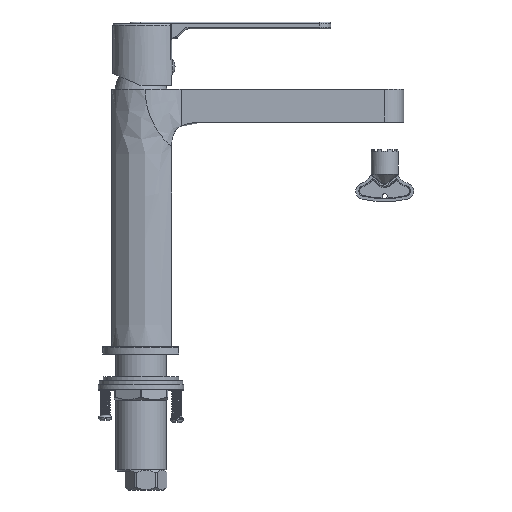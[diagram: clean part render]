
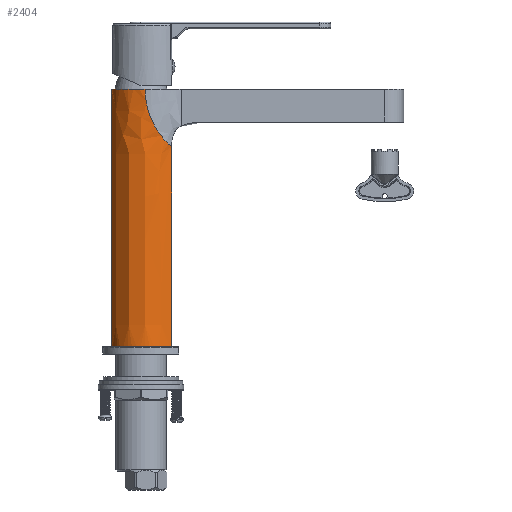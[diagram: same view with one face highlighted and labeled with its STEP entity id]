
A CAD part, front view. The second image highlights one B-rep face of the part: STEP entity #2404.
In plain terms, the highlighted face is a extrusion surface.
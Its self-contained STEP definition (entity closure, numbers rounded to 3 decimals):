
#13=CARTESIAN_POINT('',(-20.07,0.,-0.1));
#15=CARTESIAN_POINT('',(-20.07,0.,-0.1));
#16=CARTESIAN_POINT('',(-20.07,-1.516,
-0.1));
#17=CARTESIAN_POINT('',(-19.689,-4.547,
-0.1));
#18=CARTESIAN_POINT('',(-17.713,-9.24,
-0.1));
#19=CARTESIAN_POINT('',(-14.322,-13.37,
-0.1));
#20=CARTESIAN_POINT('',(-9.857,-16.469,
-0.1));
#21=CARTESIAN_POINT('',(-4.837,-18.257,
-0.1));
#22=CARTESIAN_POINT('',(0.002,-18.772,
-0.1));
#23=CARTESIAN_POINT('',(4.842,-18.257,-0.1));
#24=CARTESIAN_POINT('',(9.862,-16.469,-0.1));
#25=CARTESIAN_POINT('',(13.521,-13.929,-0.1));
#26=CARTESIAN_POINT('',(15.311,-12.057,-0.1));
#27=CARTESIAN_POINT('',(15.83,-11.44,-0.1));
#99=DIRECTION('',(0.,0.,1.));
#100=VECTOR('',#99,154.036);
#101=CARTESIAN_POINT('',(-20.07,0.,-0.1));
#102=LINE('',#101,#100);
#103=DIRECTION('',(0.,0.,-1.));
#104=VECTOR('',#103,119.609);
#105=CARTESIAN_POINT('',(15.83,-11.44,119.509));
#106=LINE('',#105,#104);
#121=CARTESIAN_POINT('',(0.001,-18.6,153.936));
#122=CARTESIAN_POINT('',(-1.612,-18.6,153.936));
#123=CARTESIAN_POINT('',(-4.838,-18.257,153.936));
#124=CARTESIAN_POINT('',(-9.857,-16.469,153.936));
#125=CARTESIAN_POINT('',(-14.322,-13.37,153.936));
#126=CARTESIAN_POINT('',(-17.713,-9.24,153.936));
#127=CARTESIAN_POINT('',(-19.689,-4.547,153.936));
#128=CARTESIAN_POINT('',(-20.07,-1.516,153.936));
#129=CARTESIAN_POINT('',(-20.07,0.,
153.936));
#267=CARTESIAN_POINT('',(15.83,-11.44,119.509));
#268=CARTESIAN_POINT('',(15.212,-12.175,120.045));
#269=CARTESIAN_POINT('',(13.805,-13.624,121.313));
#270=CARTESIAN_POINT('',(11.129,-15.58,124.099));
#271=CARTESIAN_POINT('',(8.543,-16.89,127.371));
#272=CARTESIAN_POINT('',(6.302,-17.717,130.727));
#273=CARTESIAN_POINT('',(3.73,-18.323,135.612));
#274=CARTESIAN_POINT('',(1.74,-18.553,141.011));
#275=CARTESIAN_POINT('',(0.362,-18.608,147.019));
#276=CARTESIAN_POINT('',(-0.006,-18.6,
151.567));
#277=CARTESIAN_POINT('',(0.001,-18.6,153.936));
#1910=VERTEX_POINT('',#13);
#1911=VERTEX_POINT('',#27);
#1932=CARTESIAN_POINT('',(-20.07,0.,
153.936));
#1933=VERTEX_POINT('',#1932);
#1937=VERTEX_POINT('',#121);
#1938=VERTEX_POINT('',#267);
#2375=CARTESIAN_POINT('',(-20.05,0.86,
0.));
#2376=CARTESIAN_POINT('',(-20.063,0.573,
0.));
#2377=CARTESIAN_POINT('',(-20.106,-1.229,
0.));
#2378=CARTESIAN_POINT('',(-19.689,-4.547,
0.));
#2379=CARTESIAN_POINT('',(-17.713,-9.24,
0.));
#2380=CARTESIAN_POINT('',(-14.322,-13.37,
0.));
#2381=CARTESIAN_POINT('',(-9.857,-16.469,
0.));
#2382=CARTESIAN_POINT('',(-4.837,-18.257,
0.));
#2383=CARTESIAN_POINT('',(0.002,-18.772,
0.));
#2384=CARTESIAN_POINT('',(4.842,-18.257,
0.));
#2385=CARTESIAN_POINT('',(9.862,-16.469,
0.));
#2386=CARTESIAN_POINT('',(13.521,-13.929,
0.));
#2387=CARTESIAN_POINT('',(15.423,-11.94,
0.));
#2388=CARTESIAN_POINT('',(16.035,-11.193,
0.));
#2389=CARTESIAN_POINT('',(16.135,-11.068,
0.));
#2391=DIRECTION('',(0.,0.,-1.));
#2392=VECTOR('',#2391,1.);
#2393=SURFACE_OF_LINEAR_EXTRUSION('',#2390,#2392);
#2394=ORIENTED_EDGE('',*,*,#2363,.T.);
#2396=ORIENTED_EDGE('',*,*,#2395,.F.);
#2398=ORIENTED_EDGE('',*,*,#2397,.F.);
#2400=ORIENTED_EDGE('',*,*,#2399,.T.);
#2401=ORIENTED_EDGE('',*,*,#2311,.F.);
#2402=EDGE_LOOP('',(#2394,#2396,#2398,#2400,#2401));
#2403=FACE_OUTER_BOUND('',#2402,.F.);
#28=B_SPLINE_CURVE_WITH_KNOTS('',3,(#15,#16,#17,#18,#19,#20,#21,#22,#23,#24,#25,
#26,#27),.UNSPECIFIED.,.F.,.F.,(4,1,1,1,1,1,1,1,1,1,4),(0.,0.106,
0.211,0.317,0.423,0.529,
0.634,0.74,0.846,0.952,1.),
.UNSPECIFIED.);
#130=B_SPLINE_CURVE_WITH_KNOTS('',3,(#121,#122,#123,#124,#125,#126,#127,#128,
#129),.UNSPECIFIED.,.F.,.F.,(4,1,1,1,1,1,4),(0.,0.167,
0.333,0.5,0.667,0.833,1.),
.UNSPECIFIED.);
#278=B_SPLINE_CURVE_WITH_KNOTS('',3,(#267,#268,#269,#270,#271,#272,#273,#274,
#275,#276,#277),.UNSPECIFIED.,.F.,.F.,(4,1,1,1,1,1,1,1,4),(0.,0.125,0.25,
0.375,0.5,0.625,0.75,0.875,1.),.UNSPECIFIED.);
#2311=EDGE_CURVE('',#1910,#1911,#28,.T.);
#2363=EDGE_CURVE('',#1910,#1933,#102,.T.);
#2390=B_SPLINE_CURVE_WITH_KNOTS('',3,(#2375,#2376,#2377,#2378,#2379,#2380,#2381,
#2382,#2383,#2384,#2385,#2386,#2387,#2388,#2389),.UNSPECIFIED.,.F.,.F.,(4,1,1,1,
1,1,1,1,1,1,1,1,4),(0.,0.019,0.122,0.225,
0.327,0.43,0.533,0.636,
0.738,0.841,0.944,0.991,1.),
.UNSPECIFIED.);
#2395=EDGE_CURVE('',#1937,#1933,#130,.T.);
#2397=EDGE_CURVE('',#1938,#1937,#278,.T.);
#2399=EDGE_CURVE('',#1938,#1911,#106,.T.);
#2404=ADVANCED_FACE('',(#2403),#2393,.F.);
